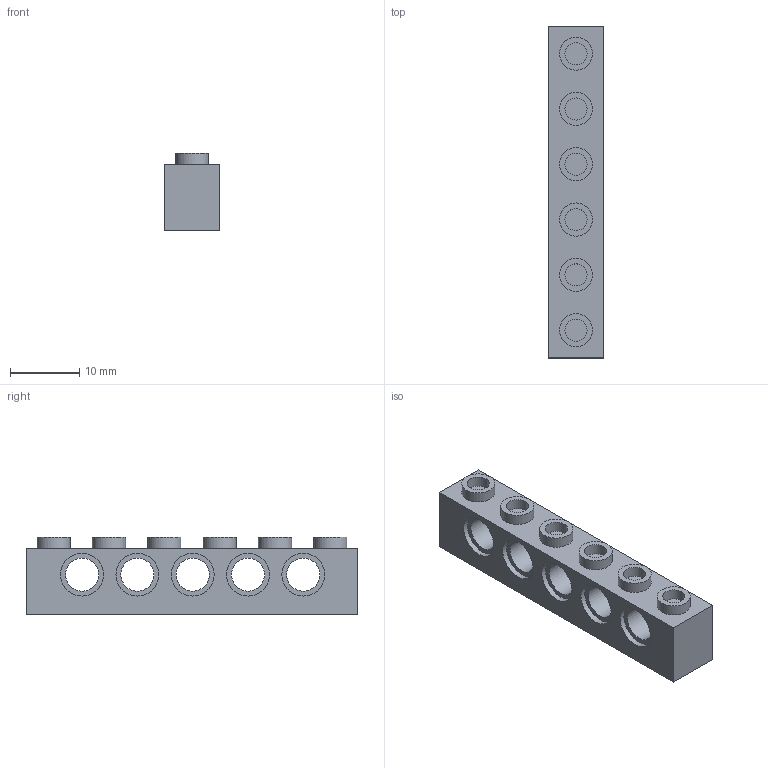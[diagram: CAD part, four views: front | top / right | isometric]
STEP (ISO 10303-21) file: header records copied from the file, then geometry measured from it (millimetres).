
FILE_DESCRIPTION(/* description */ ('Unknown'),/* implementation_level */ '2;1');
FILE_NAME(/* name */ 'Ye_389424_MCM',/* time_stamp */ '2025-07-22T00:05:56+02:00',/* author */ ('Unknown'),/* organization */ ('Unknown'),/* preprocessor_version */ 'ST-DEVELOPER v19.4',/* originating_system */ 'Solid Edge',/* authorisation */ 'Unknown');
FILE_SCHEMA (('AUTOMOTIVE_DESIGN {1 0 10303 214 3 1 1}'));
Length unit declared in the file: millimetre
Products named in the file (1): Ye_389424_MCM
Bounding box: 8 x 48 x 11.2 mm (x, y, z)
Volume: 2177.9 mm3; surface area: 3342 mm2
Topology: 1 solids, 1 shells, 90 faces, 190 edges, 130 vertices
Faces by surface type: plane 53, cylinder 37
Full cylindrical faces by diameter (mm): 3.2 x11, 4.8 x11, 6.2 x10
Entity records: 2283 total; most frequent: CARTESIAN_POINT 409, DIRECTION 394, ORIENTED_EDGE 296, EDGE_LOOP 160, FACE_BOUND 160, AXIS2_PLACEMENT_3D 160, EDGE_CURVE 148, VERTEX_POINT 120
